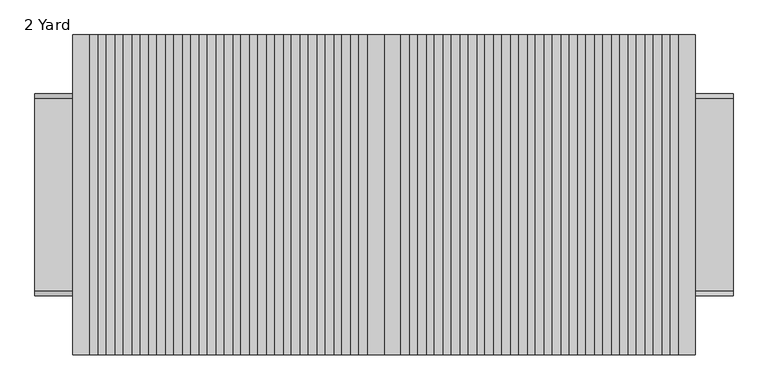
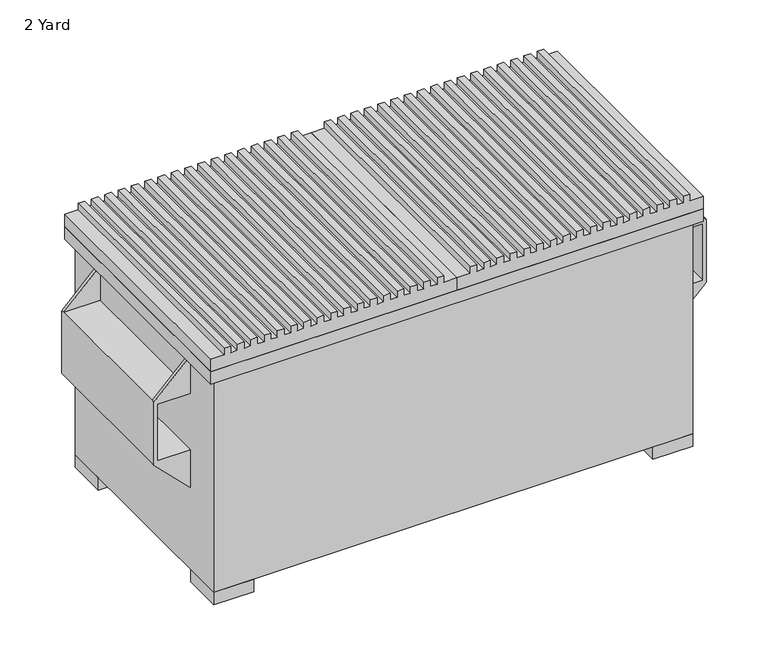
"""IFC4 building model written with IfcOpenShell, lengths in millimetres: geographic element geometry, Dumpster_3848 : 2 Yard."""

from ifc_helpers import new_model, si_unit, frame, origin, origin_with_axes, place, context, project, spatial, polyline, outline, extrude, faceted_brep, source, transform, mapped, element, save


def geographic_element_2_yard_bf01b340(model_context):
    return source(origin(), model_context, "Body", "SolidModel", [
        faceted_brep([(-838.2, 228.6, 965.2), (-838.2, -736.6, 965.2), (1041.4, -736.6, 965.2), (1041.4, 228.6, 965.2), (1016.0, 203.2, 50.8), (1016.0, -711.2, 50.8), (-812.8, -711.2, 50.8), (-812.8, 203.2, 50.8), (-812.8, 203.2, 914.4), (1016.0, 203.2, 914.4), (-812.8, -711.2, 914.4), (1016.0, -711.2, 914.4), (-838.2, 228.6, 914.4), (1041.4, 228.6, 914.4), (1041.4, -736.6, 914.4), (-838.2, -736.6, 914.4)], [[[0, 1, 2, 3]], [[4, 5, 6, 7]], [[4, 7, 8, 9]], [[7, 6, 10, 8]], [[6, 5, 11, 10]], [[5, 4, 9, 11]], [[12, 13, 14, 15], [9, 8, 10, 11]], [[1, 0, 12, 15]], [[2, 1, 15, 14]], [[3, 2, 14, 13]], [[0, 3, 13, 12]]]),
        extrude(outline(polyline([(-660.4, -711.2), (-812.8, -711.2), (-812.8, -558.8), (-660.4, -558.8), (-660.4, -711.2)])), origin_with_axes(), (0.0, 0.0, 1.0), 50.8),
        extrude(outline(polyline([(863.6, -711.2), (863.6, -558.8), (1016.0, -558.8), (1016.0, -711.2), (863.6, -711.2)])), origin_with_axes(), (0.0, 0.0, 1.0), 50.8),
        extrude(outline(polyline([(-660.4, 203.2), (-660.4, 50.8), (-812.8, 50.8), (-812.8, 203.2), (-660.4, 203.2)])), origin_with_axes(), (0.0, 0.0, 1.0), 50.8),
        extrude(outline(polyline([(863.6, 203.2), (1016.0, 203.2), (1016.0, 50.8), (863.6, 50.8), (863.6, 203.2)])), origin_with_axes(), (0.0, 0.0, 1.0), 50.8),
        faceted_brep([(1143.0, -558.8, 533.4), (1016.0, -558.8, 533.4), (1016.0, -558.8, 381.0), (1155.7, -558.8, 520.7), (1155.7, -558.8, 774.7), (1016.0, -558.8, 914.4), (1016.0, -558.8, 762.0), (1143.0, -558.8, 762.0), (1143.0, 50.8, 533.4), (1143.0, 50.8, 762.0), (1016.0, 50.8, 762.0), (1016.0, 50.8, 914.4), (1155.7, 50.8, 774.7), (1155.7, 50.8, 520.7), (1016.0, 50.8, 381.0), (1016.0, 50.8, 533.4), (1016.0, 38.1, 381.0), (1016.0, 38.1, 520.7), (1016.0, -546.1, 520.7), (1016.0, -546.1, 381.0), (1155.7, -546.1, 520.7), (1155.7, 38.1, 520.7), (1155.7, 38.1, 774.7), (1155.7, -546.1, 774.7), (1016.0, -546.1, 774.7), (1016.0, 38.1, 774.7), (1016.0, -546.1, 914.4), (1016.0, 38.1, 914.4)], [[[0, 1, 2, 3, 4, 5, 6, 7]], [[8, 9, 10, 11, 12, 13, 14, 15]], [[1, 0, 8, 15]], [[15, 14, 16, 17, 18, 19, 2, 1]], [[20, 18, 17, 21]], [[4, 3, 20, 21, 13, 12, 22, 23]], [[24, 23, 22, 25]], [[10, 6, 5, 26, 24, 25, 27, 11]], [[7, 6, 10, 9]], [[0, 7, 9, 8]], [[24, 26, 23]], [[5, 4, 23, 26]], [[22, 27, 25]], [[27, 22, 12, 11]], [[20, 19, 18]], [[3, 2, 19, 20]], [[17, 16, 21]], [[21, 16, 14, 13]]]),
        faceted_brep([(-939.8, -558.8, 533.4), (-939.8, -558.8, 762.0), (-812.8, -558.8, 762.0), (-812.8, -558.8, 914.4), (-952.5, -558.8, 774.7), (-952.5, -558.8, 520.7), (-812.8, -558.8, 381.0), (-812.8, -558.8, 533.4), (-939.8, 50.8, 533.4), (-812.8, 50.8, 533.4), (-812.8, 50.8, 381.0), (-952.5, 50.8, 520.7), (-952.5, 50.8, 774.7), (-812.8, 50.8, 914.4), (-812.8, 50.8, 762.0), (-939.8, 50.8, 762.0), (-812.8, 38.1, 914.4), (-812.8, 38.1, 774.7), (-812.8, -546.1, 774.7), (-812.8, -546.1, 914.4), (-952.5, -546.1, 774.7), (-952.5, 38.1, 774.7), (-952.5, 38.1, 520.7), (-952.5, -546.1, 520.7), (-812.8, -546.1, 520.7), (-812.8, 38.1, 520.7), (-812.8, -546.1, 381.0), (-812.8, 38.1, 381.0)], [[[0, 1, 2, 3, 4, 5, 6, 7]], [[8, 9, 10, 11, 12, 13, 14, 15]], [[1, 0, 8, 15]], [[2, 1, 15, 14]], [[2, 14, 13, 16, 17, 18, 19, 3]], [[20, 18, 17, 21]], [[5, 4, 20, 21, 12, 11, 22, 23]], [[24, 23, 22, 25]], [[10, 9, 7, 6, 26, 24, 25, 27]], [[0, 7, 9, 8]], [[20, 19, 18]], [[4, 3, 19, 20]], [[17, 16, 21]], [[21, 16, 13, 12]], [[24, 26, 23]], [[6, 5, 23, 26]], [[22, 27, 25]], [[27, 22, 11, 10]]]),
        extrude(outline(polyline([(965.2, 101.6), (1016.0, 101.6), (1016.0, 50.8), (1041.4, 50.8), (1041.4, 25.4), (1016.0, 25.4), (1016.0, 0.0), (1041.4, 0.0), (1041.4, -25.4), (1016.0, -25.4), (1016.0, -50.8), (1041.4, -50.8), (1041.4, -76.2), (1016.0, -76.2), (1016.0, -101.6), (1041.4, -101.6), (1041.4, -127.0), (1016.0, -127.0), (1016.0, -152.4), (1041.4, -152.4), (1041.4, -177.8), (1016.0, -177.8), (1016.0, -203.2), (1041.4, -203.2), (1041.4, -228.6), (1016.0, -228.6), (1016.0, -254.0), (1041.4, -254.0), (1041.4, -279.4), (1016.0, -279.4), (1016.0, -304.8), (1041.4, -304.8), (1041.4, -330.2), (1016.0, -330.2), (1016.0, -355.6), (1041.4, -355.6), (1041.4, -381.0), (1016.0, -381.0), (1016.0, -406.4), (1041.4, -406.4), (1041.4, -431.8), (1016.0, -431.8), (1016.0, -457.2), (1041.4, -457.2), (1041.4, -482.6), (1016.0, -482.6), (1016.0, -508.0), (1041.4, -508.0), (1041.4, -533.4), (1016.0, -533.4), (1016.0, -558.8), (1041.4, -558.8), (1041.4, -584.2), (1016.0, -584.2), (1016.0, -609.6), (1041.4, -609.6), (1041.4, -635.0), (1016.0, -635.0), (1016.0, -660.4), (1041.4, -660.4), (1041.4, -685.8), (1016.0, -685.8), (1016.0, -711.2), (1041.4, -711.2), (1041.4, -736.6), (1016.0, -736.6), (1016.0, -762.0), (1041.4, -762.0), (1041.4, -787.4), (1016.0, -787.4), (1016.0, -838.2), (965.2, -838.2), (965.2, 101.6)])), frame((0.0, -736.6, 0.0), z_axis=(0.0, 1.0, 0.0), x_axis=(0.0, 0.0, 1.0)), (0.0, 0.0, 1.0), 965.2),
        extrude(outline(polyline([(965.2, 1041.4), (1016.0, 1041.4), (1016.0, 990.6), (1041.4, 990.6), (1041.4, 965.2), (1016.0, 965.2), (1016.0, 939.8), (1041.4, 939.8), (1041.4, 914.4), (1016.0, 914.4), (1016.0, 889.0), (1041.4, 889.0), (1041.4, 863.6), (1016.0, 863.6), (1016.0, 838.2), (1041.4, 838.2), (1041.4, 812.8), (1016.0, 812.8), (1016.0, 787.4), (1041.4, 787.4), (1041.4, 762.0), (1016.0, 762.0), (1016.0, 736.6), (1041.4, 736.6), (1041.4, 711.2), (1016.0, 711.2), (1016.0, 685.8), (1041.4, 685.8), (1041.4, 660.4), (1016.0, 660.4), (1016.0, 635.0), (1041.4, 635.0), (1041.4, 609.6), (1016.0, 609.6), (1016.0, 584.2), (1041.4, 584.2), (1041.4, 558.8), (1016.0, 558.8), (1016.0, 533.4), (1041.4, 533.4), (1041.4, 508.0), (1016.0, 508.0), (1016.0, 482.6), (1041.4, 482.6), (1041.4, 457.2), (1016.0, 457.2), (1016.0, 431.8), (1041.4, 431.8), (1041.4, 406.4), (1016.0, 406.4), (1016.0, 381.0), (1041.4, 381.0), (1041.4, 355.6), (1016.0, 355.6), (1016.0, 330.2), (1041.4, 330.2), (1041.4, 304.8), (1016.0, 304.8), (1016.0, 279.4), (1041.4, 279.4), (1041.4, 254.0), (1016.0, 254.0), (1016.0, 228.6), (1041.4, 228.6), (1041.4, 203.2), (1016.0, 203.2), (1016.0, 177.8), (1041.4, 177.8), (1041.4, 152.4), (1016.0, 152.4), (1016.0, 101.6), (965.2, 101.6), (965.2, 1041.4)])), frame((0.0, -736.6, 0.0), z_axis=(0.0, 1.0, 0.0), x_axis=(0.0, 0.0, 1.0)), (0.0, 0.0, 1.0), 965.2),
    ])


if __name__ == "__main__":
    model = new_model("IFC4")
    model_context = context("Model", 3, world=origin())
    ifc_project = project(units=[si_unit("LENGTHUNIT", "METRE", prefix="MILLI")], contexts=[model_context])
    site = spatial("IfcSite", under=ifc_project)
    building = spatial("IfcBuilding", under=site)
    placement = place(None, origin())
    geographic_element_2_yard_shape = geographic_element_2_yard_bf01b340(model_context)
    element("IfcGeographicElement", 1, ObjectType="Dumpster_3848 : 2 Yard", at=placement, inside=building, context=model_context, shape_type="MappedRepresentation", body=[
        mapped(geographic_element_2_yard_shape, transform((0.0, 0.0, 0.0), x_axis=(1.0, 0.0, 0.0), y_axis=(0.0, 1.0, 0.0), z_axis=(0.0, 0.0, 1.0))),
    ])
    save(model, "model.ifc")
